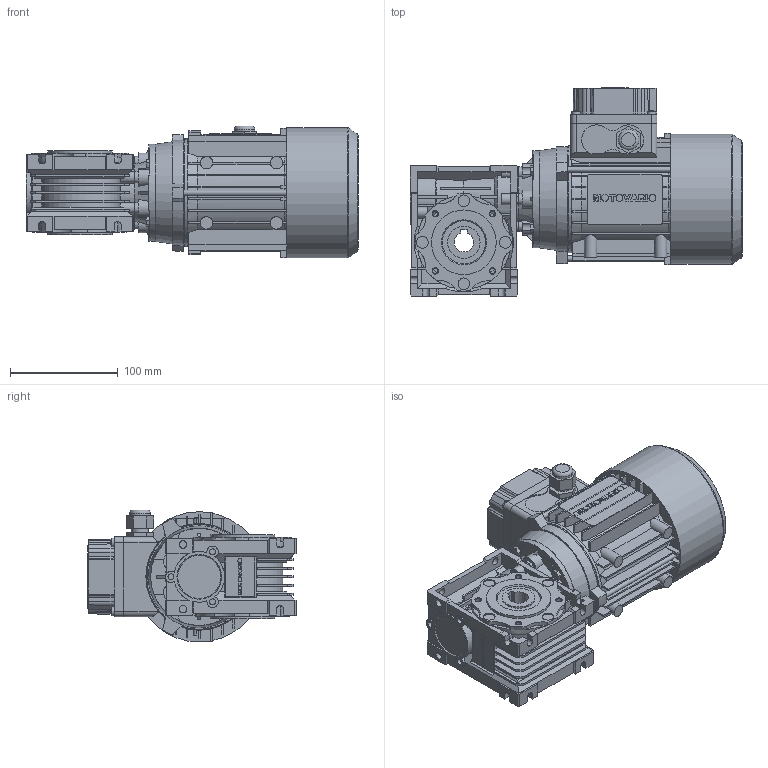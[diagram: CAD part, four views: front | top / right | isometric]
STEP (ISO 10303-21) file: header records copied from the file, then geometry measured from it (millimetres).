
FILE_DESCRIPTION(/* description */ ('STEP AP203'),/* implementation_level */ '2;1');
FILE_NAME(/* name */ 'NMRV0401271811100300T063-1(-----IC411NONO------STD)',/* time_stamp */ '2023-05-08T09:01:57+02:00',/* author */ ('License CC BY-ND 4.0'),/* organization */ ('CADENAS'),/* preprocessor_version */ 'ST-DEVELOPER v19.3',/* originating_system */ 'PARTsolutions',/* authorisation */ ' ');
FILE_SCHEMA (('CONFIG_CONTROL_DESIGN'));
Length unit declared in the file: millimetre
Products named in the file (11): NMRV0401271811100300T063-1(-----IC411NONO------STD); ALBERO_T06311X23NO; PRESSACAVO_1; COPRIMORSETTIERA_T063A002; COPRIVENTOLA_T_063_IC411_NO_-_-_-_-_STD; CARCASSA_T-063IC411B1411X23NONO--; FLANGIA_T063B14-; 40-63 B14; VB 040-11 (11); 040-18 (78)alc-n; Gear unit 40
Assembly tree (10 placements, depth 2):
  NMRV0401271811100300T063-1(-----IC411NONO------STD)
    ALBERO_T06311X23NO
    PRESSACAVO_1
    COPRIMORSETTIERA_T063A002
    COPRIVENTOLA_T_063_IC411_NO_-_-_-_-_STD
    CARCASSA_T-063IC411B1411X23NONO--
    FLANGIA_T063B14-
    40-63 B14
    VB 040-11 (11)
    040-18 (78)alc-n
    Gear unit 40
Bounding box: 308 x 193.5 x 122.45 mm (x, y, z)
Volume: 2772734.4 mm3; surface area: 373496.2 mm2
Topology: 10 solids, 10 shells, 2506 faces, 7005 edges, 4627 vertices
Faces by surface type: plane 1454, cylinder 934, cone 109, torus 5, sphere 4
Full cylindrical faces by diameter (mm): 1.8 x1, 2.02 x1, 3.242 x1, 4.3 x1, 4.75 x4, 4.917 x8, 5 x7, 5.55 x3, 6.05 x4, 7 x6, 8 x4, 10 x6, 10.8 x4, 11 x1, 11.5 x4, 15 x1, 16 x3, 19 x1, 23 x2, 28 x1, 30 x2, 35 x1, 36 x1, 40 x1, 47 x1, 60 x2, 75 x1, 90 x3, 99 x2, 120.9 x1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
Entity records: 86803 total; most frequent: CARTESIAN_POINT 15125, DIRECTION 13853, ORIENTED_EDGE 13694, EDGE_CURVE 6847, AXIS2_PLACEMENT_3D 4841, VERTEX_POINT 4590, LINE 4171, VECTOR 4171
